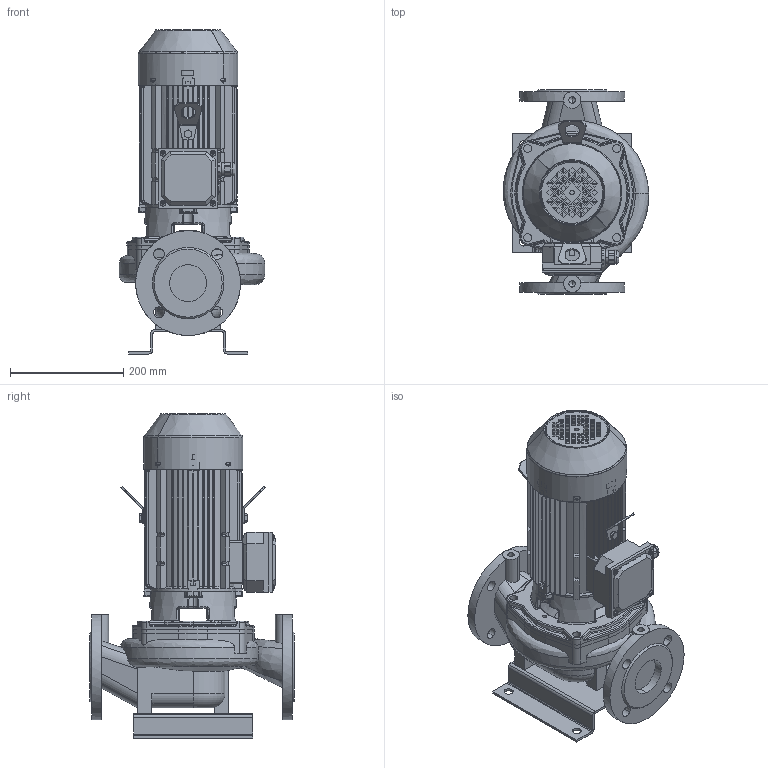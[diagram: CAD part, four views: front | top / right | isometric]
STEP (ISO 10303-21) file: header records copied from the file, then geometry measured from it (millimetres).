
FILE_DESCRIPTION(('STEP AP214'),'1');
FILE_NAME('export.stp','2018-05-28T11:39:44',(' '),(' '),'Spatial InterOp 3D',' ',' ');
FILE_SCHEMA(('AUTOMOTIVE_DESIGN { 1 0 10303 214 1 1 1 1 }'));
Length unit declared in the file: millimetre
Products named in the file (25): W_ALP10664; V_JALKA35973; V_PPAL10651066; V_TLL65AB80A1102; W_ALP10664150KP90; 160024; 160004_Valu; V_MKP90-2_F19; 480039; 480038___; 160141; 160137; 160138; 160139; 160140; Koura_Ale_M5; Plug_Blind_M20; Sealing_Plug_M20; DIN_7985-M5X8; DIN_7985-M5X12; 480037; 480036___; 160135; 160134; DIN_EN_24017_-_M8_16-Stainless_S
Assembly tree (29 placements, depth 4):
  W_ALP10664150KP90
    W_ALP10664
      V_JALKA35973
      V_PPAL10651066
      V_TLL65AB80A1102
    V_MKP90-2_F19
      160024
        160004_Valu
      480039
        480038___
      160141
        160137
        160138
        160139
        160140
        Koura_Ale_M5
        Plug_Blind_M20
        Sealing_Plug_M20
        DIN_7985-M5X8
        DIN_7985-M5X12  x4
      480037
        480036___
      160135
      160134  x2
      DIN_EN_24017_-_M8_16-Stainless_S  x2
Bounding box: 256.32 x 360 x 571 mm (x, y, z)
Volume: 6962846 mm3; surface area: 1477299.9 mm2
Topology: 23 solids, 23 shells, 2692 faces, 7112 edges, 4456 vertices
Faces by surface type: plane 1101, cylinder 832, torus 279, bspline 276, cone 167, sphere 37
Entity records: 102091 total; most frequent: CARTESIAN_POINT 35705, ORIENTED_EDGE 13508, DIRECTION 12549, EDGE_CURVE 6754, AXIS2_PLACEMENT_3D 4741, VERTEX_POINT 4278, LINE 3067, VECTOR 3067
